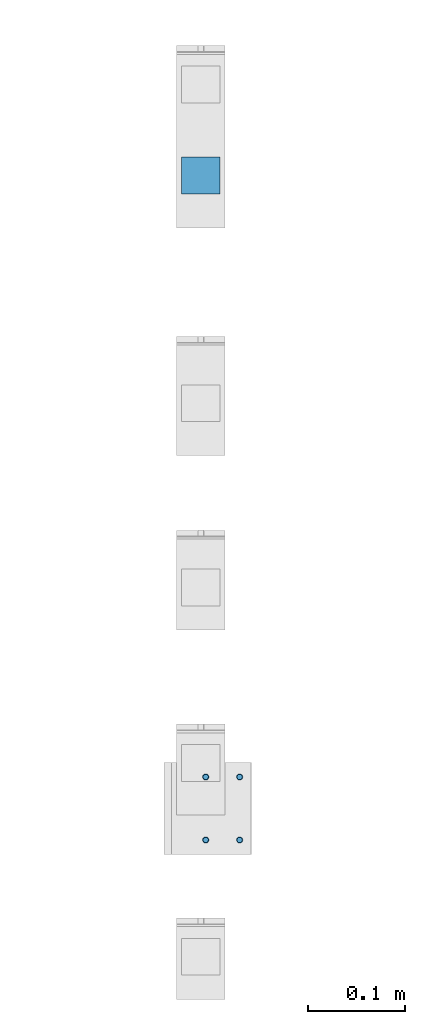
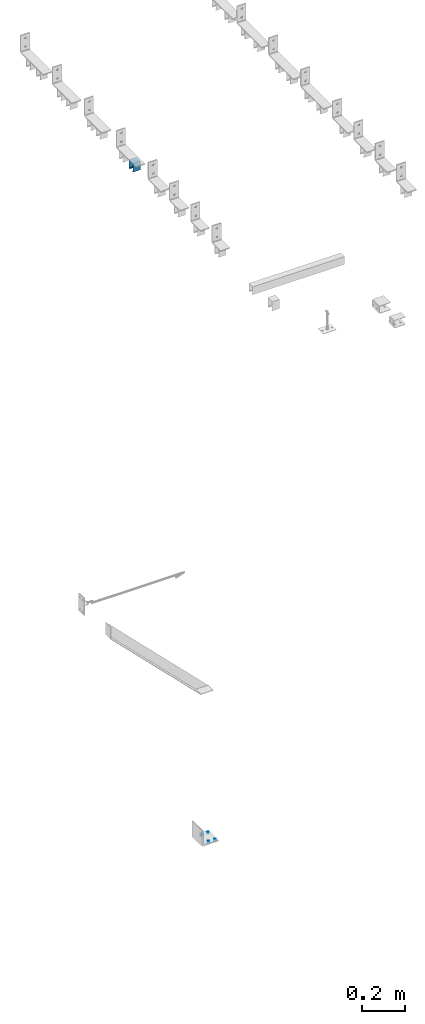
# One storey, part 57 of 91: 1 discrete accessory, 1 mechanical fastener, 2 elements without a shape of their own.
"""IFC2X3 building model written with IfcOpenShell, lengths in millimetres."""

from ifc_helpers import new_model, si_unit, frame, origin_with_axes, origin_2d_with_axis, place, context, subcontext, project, spatial, circle, c_section, extrude, source, transform, mapped, material, type_object, element, aggregate, save


model = new_model("IFC2X3")

# Units and contexts
model_context = context("Model", 3, precision=1e-05, world=origin_with_axes())
body_context = subcontext(model_context, "Body", "Model", "MODEL_VIEW")
ifc_project = project(units=[si_unit("LENGTHUNIT", "METRE", prefix="MILLI"), si_unit("AREAUNIT", "SQUARE_METRE"), si_unit("VOLUMEUNIT", "CUBIC_METRE"), si_unit("MASSUNIT", "GRAM", prefix="KILO"), si_unit("TIMEUNIT", "SECOND"), si_unit("PLANEANGLEUNIT", "RADIAN"), si_unit("SOLIDANGLEUNIT", "STERADIAN"), si_unit("THERMODYNAMICTEMPERATUREUNIT", "DEGREE_CELSIUS"), si_unit("LUMINOUSINTENSITYUNIT", "LUMEN")], contexts=[model_context])

# Site, building, storey
site_placement = place(None, origin_with_axes())
site = spatial("IfcSite", under=ifc_project, at=site_placement, Name="Undefined", CompositionType="ELEMENT")
building_placement = place(site_placement, origin_with_axes())
building = spatial("IfcBuilding", under=site, at=building_placement, Name="Undefined", CompositionType="ELEMENT")
storey_placement = place(building_placement, origin_with_axes())
storey = spatial("IfcBuildingStorey", under=building, at=storey_placement, Name="Undefined", CompositionType="ELEMENT", Elevation=0.0)

# Assembly, mechanical fastener
assembly_1_placement = place(storey_placement, origin_with_axes())
assembly_1 = element("IfcElementAssembly", 1, at=assembly_1_placement, inside=storey, Name="DOOR STOPPER", AssemblyPlace="NOTDEFINED", PredefinedType="RIGID_FRAME")
ifc_material_1 = material(Name="TEK_11TPIM")
discrete_accessory_type_1 = type_object("IfcDiscreteAccessoryType", Name="Bolt assembly")
shared_shape = source(origin_with_axes(), body_context, "Body", "SweptSolid", [
    extrude(circle(Radius=3.0, at=origin_2d_with_axis()), frame((0.0, 0.0, 0.0), z_axis=(0.0, 1.0, 0.0), x_axis=(1.0, 0.0, 0.0)), (0.0, 0.0, 1.0), 7.9),
])
mechanical_fastener_placement = place(assembly_1_placement, frame((-116773.34, 90832.6509765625, -49.2), z_axis=(-1.0, 0.0, 0.0), x_axis=(0.0, 1.0, 0.0)))
mechanical_fastener = element("IfcMechanicalFastener", 2, at=mechanical_fastener_placement, type_object=discrete_accessory_type_1, material=ifc_material_1, Name="Bolt assembly", NominalDiameter=6.0, NominalLength=7.80000019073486, context=body_context, shape_type="MappedRepresentation", body=[
    mapped(shared_shape, transform((0.0, 0.0, -17.5))),
    mapped(shared_shape, transform((65.0, 0.0, -17.5))),
    mapped(shared_shape, transform((0.0, 0.0, 17.5))),
    mapped(shared_shape, transform((65.0, 0.0, 17.5))),
])
aggregate(assembly_1, [mechanical_fastener])

# Assembly, discrete accessory
assembly_2_placement = place(storey_placement, origin_with_axes())
assembly_2 = element("IfcElementAssembly", 3, at=assembly_2_placement, inside=storey, Name="SLIDING DOOR BRACKET", AssemblyPlace="NOTDEFINED", PredefinedType="RIGID_FRAME")
ifc_material_2 = material(Name="STEEL/Steel_Undefined")
discrete_accessory_type_2 = type_object("IfcDiscreteAccessoryType", Name="TOP TRACK BRACKET")
discrete_accessory_placement = place(assembly_2_placement, frame((-116815.84, 91518.15, 3416.0), z_axis=(0.0, -1.0, 0.0), x_axis=(1.0, 0.0, 0.0)))
discrete_accessory = element("IfcDiscreteAccessory", 4, at=discrete_accessory_placement, type_object=discrete_accessory_type_2, material=ifc_material_2, Name="TOP TRACK BRACKET", ObjectType="CC38-1.5-7-50", context=body_context, shape_type="SweptSolid", body=[
    extrude(c_section(Depth=38.0, Width=50.0, WallThickness=1.5, Girth=7.0, at=origin_2d_with_axis()), frame((40.0, 0.0, 0.0), z_axis=(-1.0, 0.0, 0.0), x_axis=(0.0, -1.0, 0.0)), (0.0, 0.0, 1.0), 40.0),
])
aggregate(assembly_2, [discrete_accessory])

save(model, "model.ifc")
